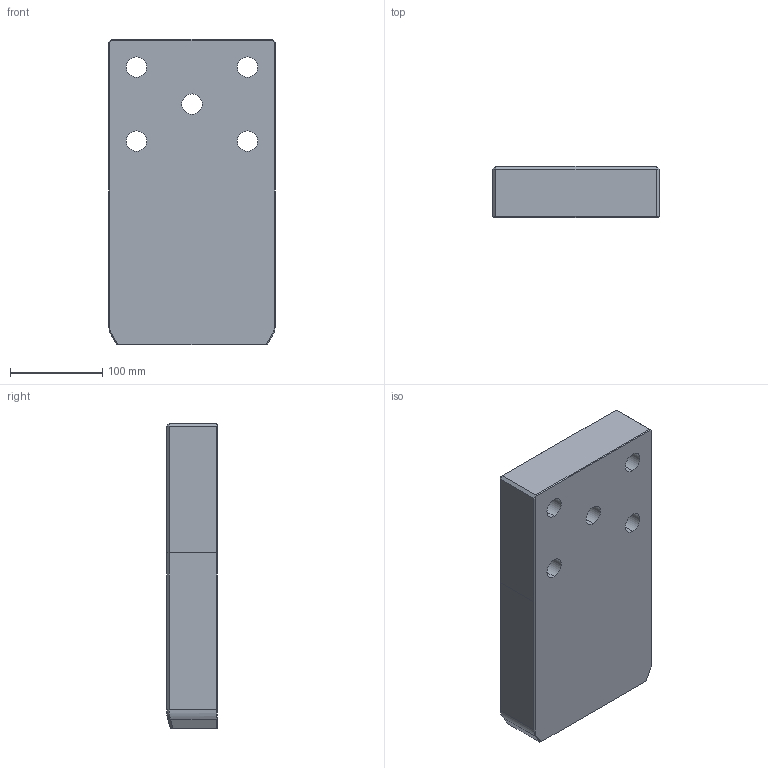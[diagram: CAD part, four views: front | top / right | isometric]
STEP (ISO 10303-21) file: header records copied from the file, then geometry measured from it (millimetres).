
FILE_DESCRIPTION((''),'2;1');
FILE_NAME('','2010-09-08T13:00:11+09:00',('misumi'),(''),'M/STEP i/f 1R2-14','CADmeister v5.1','');
FILE_SCHEMA(('AUTOMOTIVE_DESIGN'));
Length unit declared in the file: millimetre
Products named in the file (1): OGP180-330
Bounding box: 180 x 55 x 330 mm (x, y, z)
Volume: 3141843.6 mm3; surface area: 187413.7 mm2
Topology: 1 solids, 1 shells, 55 faces, 135 edges, 83 vertices
Faces by surface type: plane 32, cylinder 15, bspline 6, cone 2
Entity records: 1986 total; most frequent: CARTESIAN_POINT 611, ORIENTED_EDGE 260, DIRECTION 250, EDGE_CURVE 130, LINE 84, VECTOR 84, AXIS2_PLACEMENT_3D 83, VERTEX_POINT 78
